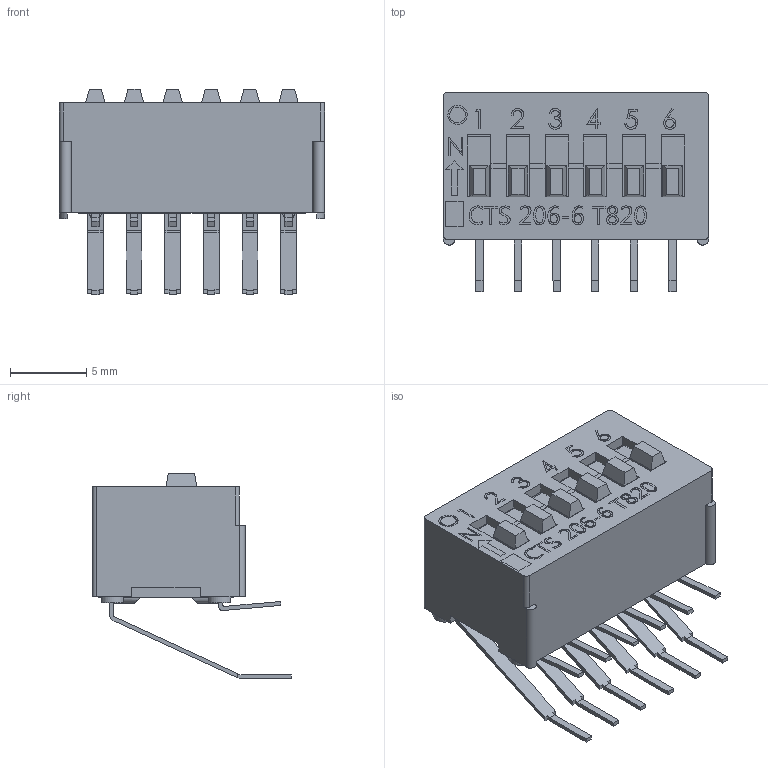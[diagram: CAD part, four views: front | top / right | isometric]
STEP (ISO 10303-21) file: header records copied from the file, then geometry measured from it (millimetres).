
FILE_DESCRIPTION (( 'STEP AP214' ), '1' );
FILE_NAME ('206-6RA.STEP', '2019-05-24T06:57:22', ( '' ), ( '' ), 'SwSTEP 2.0', 'SolidWorks 2019', '' );
FILE_SCHEMA (( 'AUTOMOTIVE_DESIGN' ));
Length unit declared in the file: millimetre
Products named in the file (4): 206006RAS- Base assly; 206-40-236-40-01(SPST-RA); 206-6RA; 206-56-014-35-01
Assembly tree (8 placements, depth 2):
  206-6RA
    206-40-236-40-01(SPST-RA)
    206-56-014-35-01  x6
    206006RAS- Base assly
Bounding box: 17.42 x 13.08 x 13.5 mm (x, y, z)
Volume: 770.8 mm3; surface area: 2470.2 mm2
Topology: 8 solids, 8 shells, 750 faces, 2029 edges, 1340 vertices
Faces by surface type: plane 529, bspline 133, cylinder 88
Entity records: 25808 total; most frequent: CARTESIAN_POINT 11762, ORIENTED_EDGE 3048, DIRECTION 2232, EDGE_CURVE 1524, LINE 1152, VECTOR 1152, VERTEX_POINT 1010, EDGE_LOOP 614
